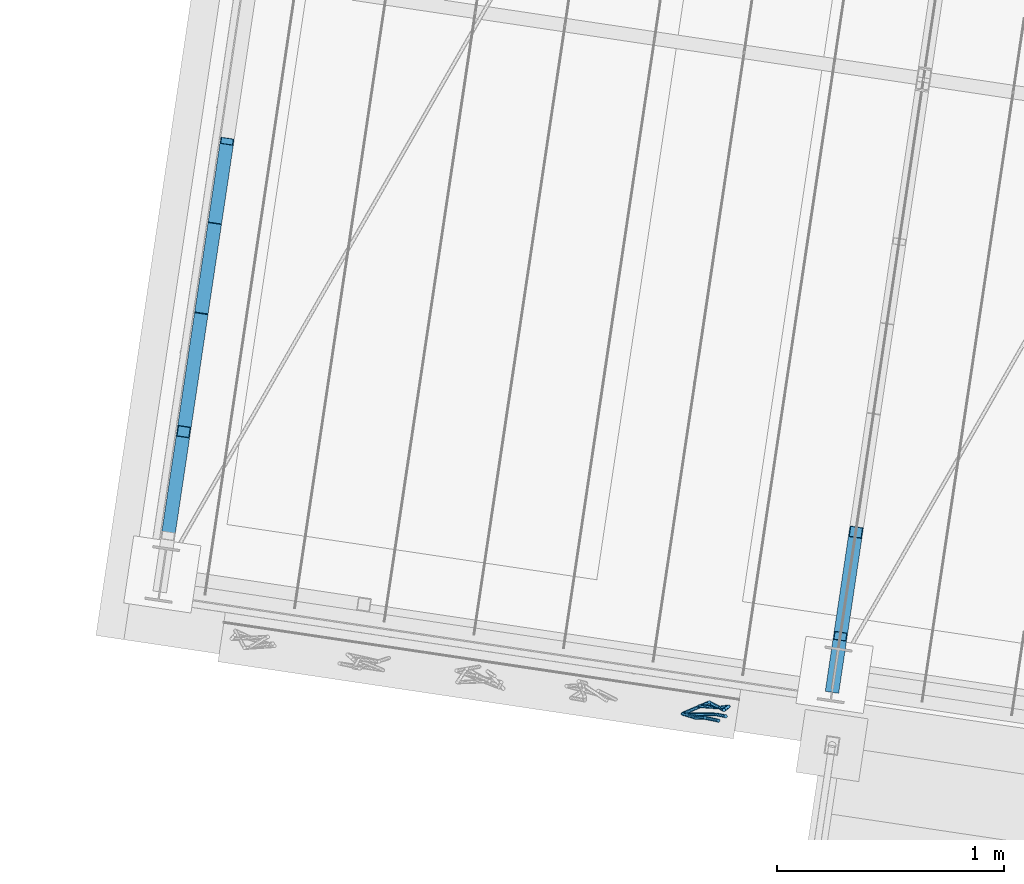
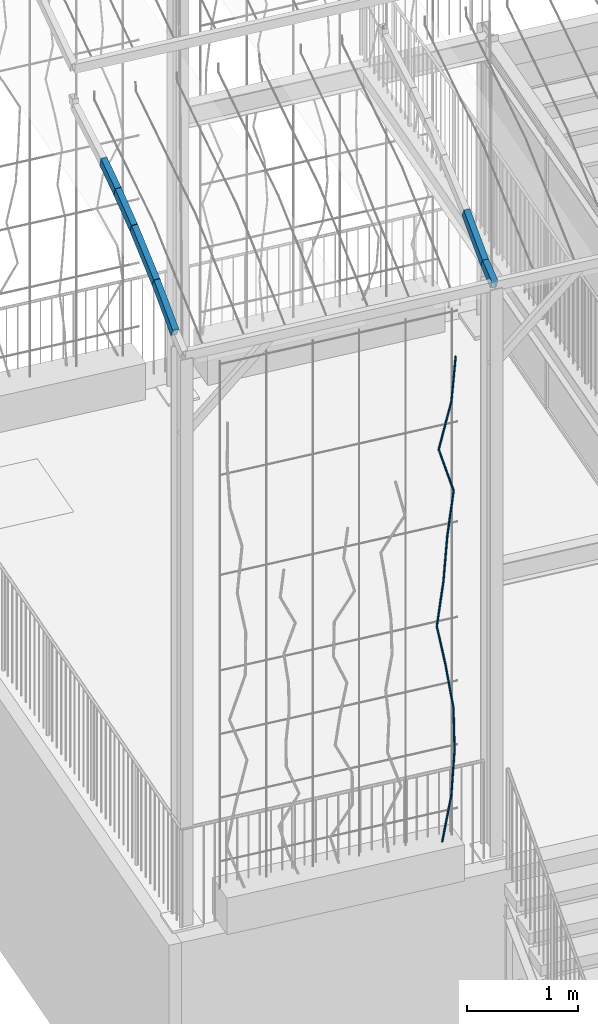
# One storey, part 103 of 142: 17 members, 2 elements without a shape of their own.
"""IFC4 building model written with IfcOpenShell, lengths in metres."""

from ifc_helpers import new_model, si_unit, direction, frame, origin_with_axes, place, context, subcontext, project, spatial, hollow_rectangle, circle, extrude, material, material_profile, profile_set, profile_usage, type_object, element, aggregate, save


model = new_model("IFC4")

# Units and contexts
model_context = context("Model", 3, precision=1e-05, world=origin_with_axes(), true_north=direction((0.0, 1.0)))
body_context = subcontext(model_context, "Body", "Model", "MODEL_VIEW")
ifc_project = project(units=[si_unit("VOLUMEUNIT", "CUBIC_METRE"), si_unit("LENGTHUNIT", "METRE"), si_unit("AREAUNIT", "SQUARE_METRE")], contexts=[model_context])

# Site, building, storey
site_placement = place(None, origin_with_axes())
site = spatial("IfcSite", under=ifc_project, at=site_placement, Name="Lares · Rua das Mercês · artigo 4771")
building_placement = place(site_placement, frame((12.0, 10.2, 13.9), z_axis=(0.0, 0.0, 1.0), x_axis=(0.989015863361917, -0.147809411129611, 0.0)))
building = spatial("IfcBuilding", under=site, at=building_placement, Name="Casa Sobreposta")
storey_placement = place(building_placement, origin_with_axes())
storey = spatial("IfcBuildingStorey", under=building, at=storey_placement, Name="00 · Habitação e estacionamento", Elevation=13.9)

# Assembly, members
assembly_1_placement = place(storey_placement, origin_with_axes())
assembly_1 = element("IfcElementAssembly", 1, at=assembly_1_placement, inside=storey, Name="Pérgola · prolongamento da estufa 6 m", ObjectType="PERGOLA_GREENHOUSE_EXTENSION", PredefinedType="USERDEFINED")
ifc_material_1 = material(Name="Aço pintado / Stahl lackiert", Category="steel")
ifc_material_profile_1 = material_profile(ifc_material_1, hollow_rectangle(XDim=0.06, YDim=0.1, WallThickness=0.004))
ifc_profile_set_1 = profile_set([ifc_material_profile_1], Name="RHS100x60x4")
ifc_profile_usage_1 = profile_usage(ifc_profile_set_1)
member_type_1 = type_object("IfcMemberType", Name="RHS100x60x4 / steel", PredefinedType="NOTDEFINED", material=ifc_profile_set_1)
member_1_placement = place(assembly_1_placement, frame((-6.0, -1.26765509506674, 6.32392631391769), z_axis=(0.0, 0.878851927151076, 0.477094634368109), x_axis=(1.0, 0.0, 0.0)))
member_1 = element("IfcMember", 2, at=member_1_placement, type_object=member_type_1, material=ifc_profile_usage_1, Name="Pérgola · arco contínuo com a estufa", context=body_context, shape_type="SweptSolid", body=[
    extrude(hollow_rectangle(XDim=0.06, YDim=0.1, WallThickness=0.004), origin_with_axes(), (0.0, 0.0, 1.0), 0.52863528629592),
])
ifc_profile_usage_2 = profile_usage(ifc_profile_set_1)
member_2_placement = place(assembly_1_placement, frame((-6.0, -0.803062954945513, 6.57613537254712), z_axis=(0.0, 0.915885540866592, 0.401439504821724), x_axis=(1.0, 0.0, 0.0)))
member_2 = element("IfcMember", 3, at=member_2_placement, type_object=member_type_1, material=ifc_profile_usage_2, Name="Pérgola · arco contínuo com a estufa", context=body_context, shape_type="SweptSolid", body=[
    extrude(hollow_rectangle(XDim=0.06, YDim=0.1, WallThickness=0.004), origin_with_axes(), (0.0, 0.0, 1.0), 0.596771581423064),
])
ifc_profile_usage_3 = profile_usage(ifc_profile_set_1)
member_3_placement = place(assembly_1_placement, frame((-6.0, -0.256488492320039, 6.81570306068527), z_axis=(0.0, 0.942820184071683, 0.333301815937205), x_axis=(1.0, 0.0, 0.0)))
member_3 = element("IfcMember", 4, at=member_3_placement, type_object=member_type_1, material=ifc_profile_usage_3, Name="Pérgola · arco contínuo com a estufa", context=body_context, shape_type="SweptSolid", body=[
    extrude(hollow_rectangle(XDim=0.06, YDim=0.1, WallThickness=0.004), origin_with_axes(), (0.0, 0.0, 1.0), 0.423025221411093),
])
ifc_profile_usage_4 = profile_usage(ifc_profile_set_1)
member_4_placement = place(assembly_1_placement, frame((-6.0, 0.142348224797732, 6.95669813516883), z_axis=(0.0, 0.959692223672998, 0.281053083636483), x_axis=(1.0, 0.0, 0.0)))
member_4 = element("IfcMember", 5, at=member_4_placement, type_object=member_type_1, material=ifc_profile_usage_4, Name="Pérgola · arco contínuo com a estufa", context=body_context, shape_type="SweptSolid", body=[
    extrude(hollow_rectangle(XDim=0.06, YDim=0.1, WallThickness=0.004), origin_with_axes(), (0.0, 0.0, 1.0), 0.365557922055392),
])
ifc_profile_usage_5 = profile_usage(ifc_profile_set_1)
member_5_placement = place(assembly_1_placement, frame((-3.0, -1.5, 6.23430000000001), z_axis=(0.0, 0.932991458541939, 0.35989851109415), x_axis=(1.0, 0.0, 0.0)))
member_5 = element("IfcMember", 6, at=member_5_placement, type_object=member_type_1, material=ifc_profile_usage_5, Name="Pérgola · arco contínuo com a estufa", context=body_context, shape_type="SweptSolid", body=[
    extrude(hollow_rectangle(XDim=0.06, YDim=0.1, WallThickness=0.004), origin_with_axes(), (0.0, 0.0, 1.0), 0.249032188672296),
])
ifc_profile_usage_6 = profile_usage(ifc_profile_set_1)
member_6_placement = place(assembly_1_placement, frame((-3.0, -1.26765509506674, 6.32392631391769), z_axis=(0.0, 0.878851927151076, 0.477094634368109), x_axis=(1.0, 0.0, 0.0)))
member_6 = element("IfcMember", 7, at=member_6_placement, type_object=member_type_1, material=ifc_profile_usage_6, Name="Pérgola · arco contínuo com a estufa", context=body_context, shape_type="SweptSolid", body=[
    extrude(hollow_rectangle(XDim=0.06, YDim=0.1, WallThickness=0.004), origin_with_axes(), (0.0, 0.0, 1.0), 0.52863528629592),
])
aggregate(assembly_1, [member_1, member_2, member_3, member_4, member_5, member_6])

assembly_2_placement = place(storey_placement, origin_with_axes())
assembly_2 = element("IfcElementAssembly", 8, at=assembly_2_placement, inside=storey, Name="Fachada sul e pátio · estrutura e trepadeiras", ObjectType="LIVING_SHADE_TRELLIS", PredefinedType="USERDEFINED")
ifc_material_2 = material(Name="Ramos de trepadeiras", Category="wood")
ifc_material_profile_2 = material_profile(ifc_material_2, circle(Radius=0.0075))
ifc_profile_set_2 = profile_set([ifc_material_profile_2], Name="D0.015")
ifc_profile_usage_7 = profile_usage(ifc_profile_set_2)
member_type_2 = type_object("IfcMemberType", Name="D0.015 / vine_wood", PredefinedType="NOTDEFINED", material=ifc_profile_set_2)
member_7_placement = place(assembly_2_placement, frame((-3.56958320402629, -1.66459777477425, 0.35), z_axis=(0.186085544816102, 0.0151258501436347, 0.982417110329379), x_axis=(0.0810171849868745, -0.99671270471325, 0.0)))
member_7 = element("IfcMember", 9, at=member_7_placement, type_object=member_type_2, material=ifc_profile_usage_7, Name="Trepadeiras · ramo", context=body_context, shape_type="SweptSolid", body=[
    extrude(circle(Radius=0.0075), origin_with_axes(), (0.0, 0.0, 1.0), 0.493502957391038),
])
ifc_profile_usage_8 = profile_usage(ifc_profile_set_2)
member_8_placement = place(assembly_2_placement, frame((-3.47774943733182, -1.65713312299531, 0.834825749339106), z_axis=(0.0738530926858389, 0.0207066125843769, 0.997054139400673), x_axis=(0.269965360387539, -0.96287003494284, 0.0)))
member_8 = element("IfcMember", 10, at=member_8_placement, type_object=member_type_2, material=ifc_profile_usage_8, Name="Trepadeiras · ramo", context=body_context, shape_type="SweptSolid", body=[
    extrude(circle(Radius=0.0075), origin_with_axes(), (0.0, 0.0, 1.0), 0.486258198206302),
])
ifc_profile_usage_9 = profile_usage(ifc_profile_set_2)
member_9_placement = place(assembly_2_placement, frame((-3.44183776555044, -1.64706436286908, 1.31965149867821), z_axis=(-0.0373703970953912, -0.0379373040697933, 0.998581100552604), x_axis=(-0.712409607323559, 0.701763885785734, 0.0)))
member_9 = element("IfcMember", 11, at=member_9_placement, type_object=member_type_2, material=ifc_profile_usage_9, Name="Trepadeiras · ramo", context=body_context, shape_type="SweptSolid", body=[
    extrude(circle(Radius=0.0075), origin_with_axes(), (0.0, 0.0, 1.0), 0.485514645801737),
])
ifc_profile_usage_10 = profile_usage(ifc_profile_set_2)
member_10_placement = place(assembly_2_placement, frame((-3.45998164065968, -1.6654834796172, 1.80447724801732), z_axis=(-0.140931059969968, 0.0483273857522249, 0.988839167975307), x_axis=(0.324373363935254, 0.945929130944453, 0.0)))
member_10 = element("IfcMember", 12, at=member_10_placement, type_object=member_type_2, material=ifc_profile_usage_10, Name="Trepadeiras · ramo", context=body_context, shape_type="SweptSolid", body=[
    extrude(circle(Radius=0.0075), origin_with_axes(), (0.0, 0.0, 1.0), 0.490297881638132),
])
ifc_profile_usage_11 = profile_usage(ifc_profile_set_2)
member_11_placement = place(assembly_2_placement, frame((-3.52907984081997, -1.64178866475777, 2.28930299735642), z_axis=(-0.217013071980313, -0.13403938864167, 0.966922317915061), x_axis=(-0.525498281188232, 0.850794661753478, 0.0)))
member_11 = element("IfcMember", 13, at=member_11_placement, type_object=member_type_2, material=ifc_profile_usage_11, Name="Trepadeiras · ramo", context=body_context, shape_type="SweptSolid", body=[
    extrude(circle(Radius=0.0075), origin_with_axes(), (0.0, 0.0, 1.0), 0.501411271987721),
])
ifc_profile_usage_12 = profile_usage(ifc_profile_set_2)
member_12_placement = place(assembly_2_placement, frame((-3.63789264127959, -1.70899752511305, 2.77412874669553), z_axis=(0.12363822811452, -0.0183336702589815, 0.992157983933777), x_axis=(-0.146680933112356, -0.989183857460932, 0.0)))
member_12 = element("IfcMember", 14, at=member_12_placement, type_object=member_type_2, material=ifc_profile_usage_12, Name="Trepadeiras · ramo", context=body_context, shape_type="SweptSolid", body=[
    extrude(circle(Radius=0.0075), origin_with_axes(), (0.0, 0.0, 1.0), 0.488657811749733),
])
ifc_profile_usage_13 = profile_usage(ifc_profile_set_2)
member_13_placement = place(assembly_2_placement, frame((-3.57747585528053, -1.71795641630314, 3.25895449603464), z_axis=(0.0824881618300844, 0.0132015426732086, 0.996504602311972), x_axis=(0.158030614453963, -0.987434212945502, 0.0)))
member_13 = element("IfcMember", 15, at=member_13_placement, type_object=member_type_2, material=ifc_profile_usage_13, Name="Trepadeiras · ramo", context=body_context, shape_type="SweptSolid", body=[
    extrude(circle(Radius=0.0075), origin_with_axes(), (0.0, 0.0, 1.0), 0.486526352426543),
])
ifc_profile_usage_14 = profile_usage(ifc_profile_set_2)
member_14_placement = place(assembly_2_placement, frame((-3.53734319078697, -1.71153351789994, 3.74378024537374), z_axis=(0.122461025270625, -0.00831900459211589, 0.992438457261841), x_axis=(-0.0677756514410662, -0.997700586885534, 0.0)))
member_14 = element("IfcMember", 16, at=member_14_placement, type_object=member_type_2, material=ifc_profile_usage_14, Name="Trepadeiras · ramo", context=body_context, shape_type="SweptSolid", body=[
    extrude(circle(Radius=0.0075), origin_with_axes(), (0.0, 0.0, 1.0), 0.488519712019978),
])
ifc_profile_usage_15 = profile_usage(ifc_profile_set_2)
member_15_placement = place(assembly_2_placement, frame((-3.47751856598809, -1.71559751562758, 4.22860599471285), z_axis=(-0.280111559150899, 0.0149804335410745, 0.959850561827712), x_axis=(0.0534039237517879, 0.998572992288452, 0.0)))
member_15 = element("IfcMember", 17, at=member_15_placement, type_object=member_type_2, material=ifc_profile_usage_15, Name="Trepadeiras · ramo", context=body_context, shape_type="SweptSolid", body=[
    extrude(circle(Radius=0.0075), origin_with_axes(), (0.0, 0.0, 1.0), 0.505105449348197),
])
ifc_profile_usage_16 = profile_usage(ifc_profile_set_2)
member_16_placement = place(assembly_2_placement, frame((-3.61900444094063, -1.70803081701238, 4.71343174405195), z_axis=(0.258565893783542, 0.0363178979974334, 0.965310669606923), x_axis=(0.139093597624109, -0.990279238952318, 0.0)))
member_16 = element("IfcMember", 18, at=member_16_placement, type_object=member_type_2, material=ifc_profile_usage_16, Name="Trepadeiras · ramo", context=body_context, shape_type="SweptSolid", body=[
    extrude(circle(Radius=0.0075), origin_with_axes(), (0.0, 0.0, 1.0), 0.502248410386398),
])
ifc_profile_usage_17 = profile_usage(ifc_profile_set_2)
member_17_placement = place(assembly_2_placement, frame((-3.48914013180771, -1.6897902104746, 5.19825749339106), z_axis=(0.0834842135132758, -0.00407642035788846, 0.996500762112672), x_axis=(-0.0487705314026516, -0.998810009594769, 0.0)))
member_17 = element("IfcMember", 19, at=member_17_placement, type_object=member_type_2, material=ifc_profile_usage_17, Name="Trepadeiras · ramo", context=body_context, shape_type="SweptSolid", body=[
    extrude(circle(Radius=0.0075), origin_with_axes(), (0.0, 0.0, 1.0), 0.486528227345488),
])
aggregate(assembly_2, [member_7, member_8, member_9, member_10, member_11, member_12, member_13, member_14, member_15, member_16, member_17])

save(model, "model.ifc")
